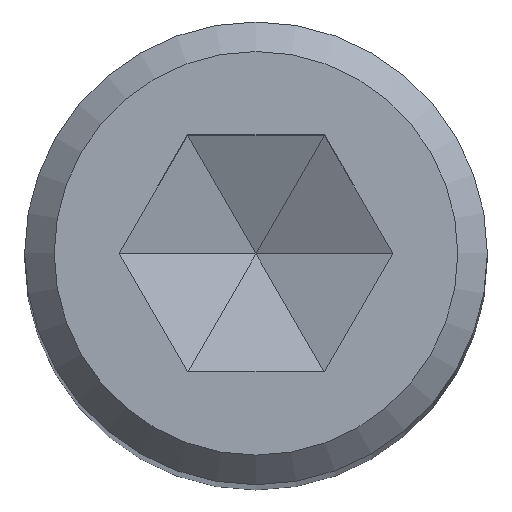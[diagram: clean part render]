
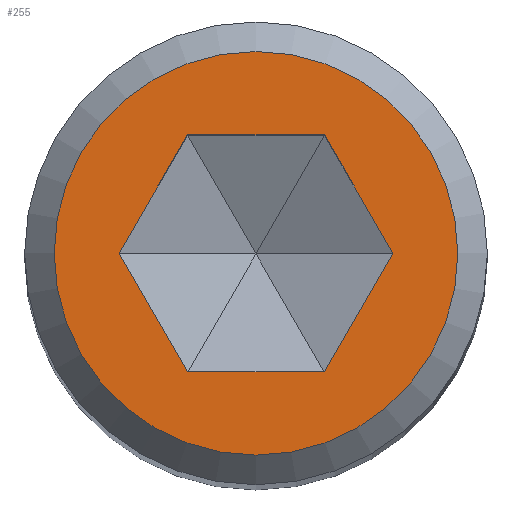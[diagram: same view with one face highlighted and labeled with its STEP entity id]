
A CAD part, top view. The second image highlights one B-rep face of the part: STEP entity #255.
In plain terms, the highlighted planar face has unit normal (0, 0, 1).
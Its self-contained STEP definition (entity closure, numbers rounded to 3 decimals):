
#20=FACE_BOUND('',#61,.T.);
#28=PLANE('',#291);
#43=FACE_OUTER_BOUND('',#60,.T.);
#60=EDGE_LOOP('',(#209));
#61=EDGE_LOOP('',(#210,#211,#212,#213,#214,#215));
#83=LINE('',#418,#111);
#86=LINE('',#423,#114);
#87=LINE('',#425,#115);
#88=LINE('',#427,#116);
#89=LINE('',#429,#117);
#90=LINE('',#430,#118);
#111=VECTOR('',#344,10.);
#114=VECTOR('',#349,10.);
#115=VECTOR('',#350,10.);
#116=VECTOR('',#351,10.);
#117=VECTOR('',#352,10.);
#118=VECTOR('',#353,10.);
#127=CIRCLE('',#282,1.277);
#131=VERTEX_POINT('',#385);
#140=VERTEX_POINT('',#416);
#141=VERTEX_POINT('',#417);
#142=VERTEX_POINT('',#422);
#143=VERTEX_POINT('',#424);
#144=VERTEX_POINT('',#426);
#145=VERTEX_POINT('',#428);
#150=EDGE_CURVE('',#131,#131,#127,.T.);
#165=EDGE_CURVE('',#140,#141,#83,.T.);
#168=EDGE_CURVE('',#141,#142,#86,.T.);
#169=EDGE_CURVE('',#142,#143,#87,.T.);
#170=EDGE_CURVE('',#143,#144,#88,.T.);
#171=EDGE_CURVE('',#144,#145,#89,.T.);
#172=EDGE_CURVE('',#145,#140,#90,.T.);
#209=ORIENTED_EDGE('',*,*,#150,.T.);
#210=ORIENTED_EDGE('',*,*,#165,.T.);
#211=ORIENTED_EDGE('',*,*,#168,.T.);
#212=ORIENTED_EDGE('',*,*,#169,.T.);
#213=ORIENTED_EDGE('',*,*,#170,.T.);
#214=ORIENTED_EDGE('',*,*,#171,.T.);
#215=ORIENTED_EDGE('',*,*,#172,.T.);
#255=ADVANCED_FACE('',(#43,#20),#28,.T.);
#282=AXIS2_PLACEMENT_3D('',#386,#313,#314);
#291=AXIS2_PLACEMENT_3D('',#421,#347,#348);
#313=DIRECTION('center_axis',(0.,0.,1.));
#314=DIRECTION('ref_axis',(-1.,0.,0.));
#344=DIRECTION('',(1.,0.,0.));
#347=DIRECTION('center_axis',(0.,0.,1.));
#348=DIRECTION('ref_axis',(1.,0.,0.));
#349=DIRECTION('',(0.5,-0.866,0.));
#350=DIRECTION('',(-0.5,-0.866,0.));
#351=DIRECTION('',(-1.,0.,0.));
#352=DIRECTION('',(-0.5,0.866,0.));
#353=DIRECTION('',(0.5,0.866,0.));
#385=CARTESIAN_POINT('',(1.277,0.,0.));
#386=CARTESIAN_POINT('Origin',(0.,0.,0.));
#416=CARTESIAN_POINT('',(-0.433,0.75,0.));
#417=CARTESIAN_POINT('',(0.433,0.75,0.));
#418=CARTESIAN_POINT('',(-0.967,0.75,0.));
#421=CARTESIAN_POINT('Origin',(-1.5,0.,0.));
#422=CARTESIAN_POINT('',(0.866,0.,0.));
#423=CARTESIAN_POINT('',(0.354,0.887,0.));
#424=CARTESIAN_POINT('',(0.433,-0.75,0.));
#425=CARTESIAN_POINT('',(0.57,-0.512,0.));
#426=CARTESIAN_POINT('',(-0.433,-0.75,0.));
#427=CARTESIAN_POINT('',(-0.533,-0.75,0.));
#428=CARTESIAN_POINT('',(-0.866,0.,0.));
#429=CARTESIAN_POINT('',(-0.729,-0.238,0.));
#430=CARTESIAN_POINT('',(-0.945,-0.137,0.));
